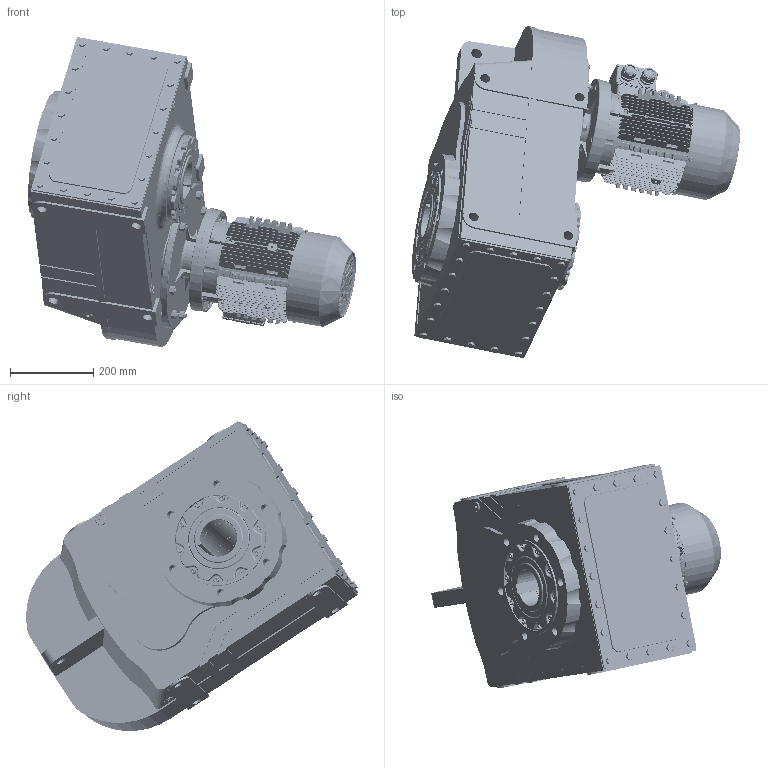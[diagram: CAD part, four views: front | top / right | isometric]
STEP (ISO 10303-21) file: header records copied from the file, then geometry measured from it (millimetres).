
FILE_DESCRIPTION (( 'STEP AP203' ), '1' );
FILE_NAME ('DV_773_0_MX3-112.STEP', '2018-11-19T08:15:20', ( '' ), ( '' ), 'SwSTEP 2.0', 'SolidWorks 2012', '' );
FILE_SCHEMA (( 'CONFIG_CONTROL_DESIGN' ));
Products named in the file (27): DMX-IE3 112  cable glands_1; hexagon flange head tapping screws gb_GB_SQUARE_AND_HEXAGON_TYPE137 ST4.8X9.5 C-N_1; eyebolts gb_GB_FASTENER_SCREWS_FRS M8-N_1; DMX-IE3 112B5 flage; plain parallel keys_GB_CONNECTING_PIECE_KEYS_CSK 8X50_1; DMX-IE3 112terminal box cover_1; DMX-IE3 112terminal box base_1; cross recessed pan head screws gb_GB_CROSS_SCREWS_TYPE1 M5X12-12  H type-N_1; hexagon socket head cap screws gb_GB_FASTENER_SCREWS_HSHCS M8X40-N_1; DMX-IE3 112   fan cover_1; hexagon nuts grade c gb_GB_FASTENER_NUT_SNC1 M8-N_1; spring lock washers--normal type gb_GB_FASTENER_WASHER_SW 8_1; circlips for shaft--type a large gb_GB_CONNECTING_PIECE_RING_RRA 28_1; DMX-IE3 112 fan_1; DMX-IE3 oil seal_1; deep groove ball bearings gb_Rolling bearings 6306 GB 276-94_1; deep groove ball bearings gb_Rolling bearings 6206 GB 276-94_1; DMX-IE3 112M4  oil seal_1; DMX-IE3 112 shield_1; ML22A_Varsayìlan; 63100B5_Varsayìlan; DMX-IE3 112 shaft_1; DMX-IE3 112M4 casing_1; D773_Varsayìlan; MX3-112_B5; DV_773_0_MX3-112; rivets for name plate gb_GB_OTHERRIVETS_TYPE93 2.5X5
Assembly tree (56 placements, depth 3):
  DV_773_0_MX3-112
    D773_Varsayìlan
    63100B5_Varsayìlan
    ML22A_Varsayìlan
    MX3-112_B5
      DMX-IE3 112M4 casing_1
      DMX-IE3 112 shaft_1
      DMX-IE3 112 shield_1
      deep groove ball bearings gb_Rolling bearings 6306 GB 276-94_1
      deep groove ball bearings gb_Rolling bearings 6206 GB 276-94_1
      DMX-IE3 112M4  oil seal_1
      DMX-IE3 oil seal_1
      DMX-IE3 112 fan_1
      circlips for shaft--type a large gb_GB_CONNECTING_PIECE_RING_RRA 28_1
      spring lock washers--normal type gb_GB_FASTENER_WASHER_SW 8_1  x8
      hexagon nuts grade c gb_GB_FASTENER_NUT_SNC1 M8-N_1  x8
      hexagon socket head cap screws gb_GB_FASTENER_SCREWS_HSHCS M8X40-N_1  x8
      DMX-IE3 112   fan cover_1
      plain parallel keys_GB_CONNECTING_PIECE_KEYS_CSK 8X50_1
      DMX-IE3 112terminal box base_1
      DMX-IE3 112terminal box cover_1
      cross recessed pan head screws gb_GB_CROSS_SCREWS_TYPE1 M5X12-12  H type-N_1  x4
      eyebolts gb_GB_FASTENER_SCREWS_FRS M8-N_1
      hexagon flange head tapping screws gb_GB_SQUARE_AND_HEXAGON_TYPE137 ST4.8X9.5 C-N_1  x5
      DMX-IE3 112  cable glands_1  x2
      DMX-IE3 112B5 flage
      rivets for name plate gb_GB_OTHERRIVETS_TYPE93 2.5X5  x2
Bounding box: 788.06 x 797.99 x 745.23 mm (x, y, z)
Volume: 83697730.3 mm3; surface area: 3590732.5 mm2
Topology: 57 solids, 63 shells, 8499 faces, 21751 edges, 13255 vertices
Faces by surface type: plane 3093, cylinder 2218, bspline 1813, cone 977, torus 268, sphere 130
Entity records: 300670 total; most frequent: CARTESIAN_POINT 118881, ORIENTED_EDGE 39808, DIRECTION 34157, EDGE_CURVE 19907, AXIS2_PLACEMENT_3D 12671, VERTEX_POINT 12268, VECTOR 8815, LINE 8815
